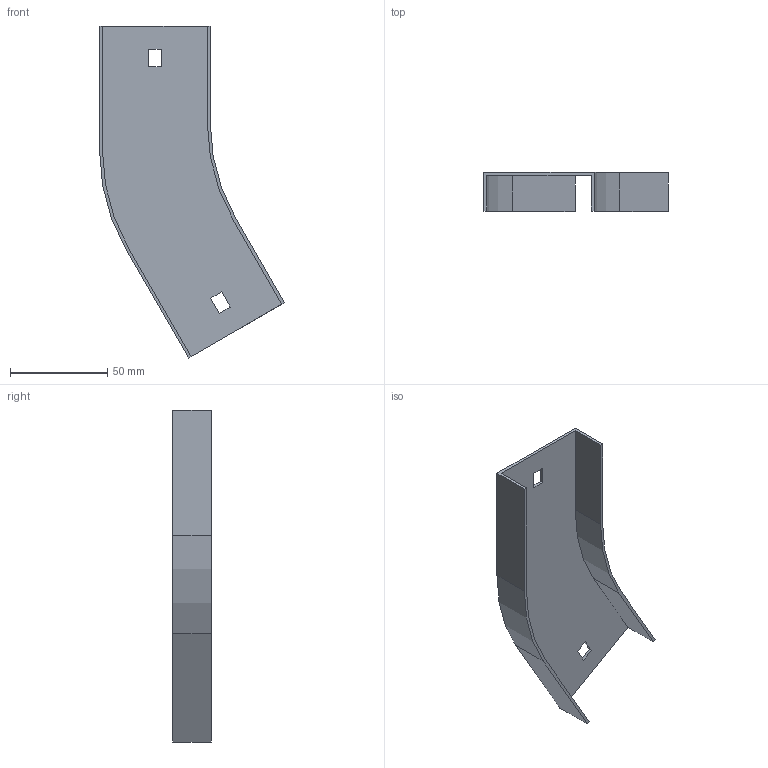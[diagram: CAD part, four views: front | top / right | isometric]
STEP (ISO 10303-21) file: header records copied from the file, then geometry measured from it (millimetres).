
FILE_DESCRIPTION (( 'STEP AP214' ), '1' );
FILE_NAME ('12N1R050.step', '2025-02-21T09:19:53', ( '' ), ( '' ), 'SwSTEP 2.0', 'SolidWorks 2023', '' );
FILE_SCHEMA (( 'AUTOMOTIVE_DESIGN' ));
Length unit declared in the file: millimetre
Products named in the file (1): 12N1R050
Bounding box: 95.2 x 20 x 171.05 mm (x, y, z)
Volume: 23447 mm3; surface area: 32138.2 mm2
Topology: 1 solids, 1 shells, 26 faces, 72 edges, 48 vertices
Faces by surface type: plane 22, cylinder 4
Entity records: 855 total; most frequent: CARTESIAN_POINT 147, ORIENTED_EDGE 144, DIRECTION 134, EDGE_CURVE 72, VECTOR 64, LINE 64, VERTEX_POINT 48, AXIS2_PLACEMENT_3D 35
